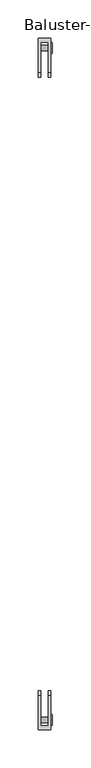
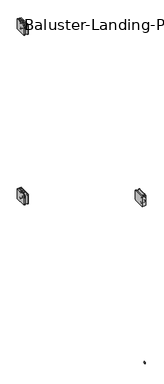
"""IFC4 building model written with IfcOpenShell, lengths in millimetres: railing geometry, Baluster-Landing-Panel-VIVA-BEACON-Lower : Standard_Glass."""

from ifc_helpers import new_model, si_unit, point, frame, origin, place, context, project, spatial, polyline, circle_curve, ellipse_curve, trimmed, outline, extrude, source, transform, mapped, element, save
from ifc_brep_helpers import plane_surface, cylinder_surface, revolved_surface, advanced_brep


def baluster_landing_panel_viva_beacon_lower_standard_glass_b56cfc86(model_context):
    return source(origin(), model_context, "Body", "SolidModel", [
        extrude(outline(polyline([(864.6905341, 973.286725), (862.64357, 969.7412791), (858.5496417, 969.7412791), (856.5026775, 973.286725), (858.5496417, 976.8321709), (862.64357, 976.8321709), (864.6905341, 973.286725)])), frame((46.904612, 0.0, 0.0), z_axis=(1.0, 0.0, 0.0), x_axis=(0.0, 1.0, 0.0)), (0.0, 0.0, 1.0), 1.4969696),
        advanced_brep(
        [(33.3375, 864.1420517, 973.286725), (46.0375, 864.1420517, 973.286725), (46.0375, 857.0511599, 973.286725), (33.3375, 857.0511599, 973.286725), (46.0375, 868.0043949, 973.286725), (46.0375, 853.1888167, 973.286725), (46.904612, 862.2526812, 973.286725), (33.3375, 862.2526812, 973.286725), (33.3375, 858.9405304, 973.286725), (46.904612, 858.9405304, 973.286725), (46.8723449, 868.0043949, 973.286725), (48.1536169, 866.7231229, 973.286725), (48.1536169, 854.4700888, 973.286725), (46.8723449, 853.1888167, 973.286725), (48.1536169, 864.8952014, 973.286725), (48.1536169, 856.2980103, 973.286725), (46.904612, 864.8952014, 973.286725), (46.904612, 856.2980103, 973.286725)],
        [
            (0, 1),
            (1, 2, circle_curve(frame((46.0375, 860.5966058, 973.286725), z_axis=(-1.0, 0.0, 0.0), x_axis=(0.0, -1.0, 0.0)), 3.5454459)),
            (2, 3),
            (3, 0, circle_curve(frame((33.3375, 860.5966058, 973.286725), z_axis=(1.0, 0.0, 0.0), x_axis=(0.0, -1.0, 0.0)), 3.5454459)),
            (2, 1, circle_curve(frame((46.0375, 860.5966058, 973.286725), z_axis=(-1.0, 0.0, 0.0), x_axis=(0.0, -1.0, 0.0)), 3.5454459)),
            (0, 3, circle_curve(frame((33.3375, 860.5966058, 973.286725), z_axis=(1.0, 0.0, 0.0), x_axis=(0.0, -1.0, 0.0)), 3.5454459)),
            (1, 4),
            (4, 5, circle_curve(frame((46.0375, 860.5966058, 973.286725), z_axis=(-1.0, 0.0, 0.0), x_axis=(0.0, -1.0, 0.0)), 7.4077891)),
            (5, 2),
            (5, 4, circle_curve(frame((46.0375, 860.5966058, 973.286725), z_axis=(-1.0, 0.0, 0.0), x_axis=(0.0, -1.0, 0.0)), 7.4077891)),
            (6, 7),
            (7, 8, circle_curve(frame((33.3375, 860.5966058, 973.286725), z_axis=(-1.0, 0.0, 0.0), x_axis=(0.0, -1.0, 0.0)), 1.6560754)),
            (8, 9),
            (9, 6, circle_curve(frame((46.904612, 860.5966058, 973.286725), z_axis=(1.0, 0.0, 0.0), x_axis=(0.0, -1.0, 0.0)), 1.6560754)),
            (8, 7, circle_curve(frame((33.3375, 860.5966058, 973.286725), z_axis=(-1.0, 0.0, 0.0), x_axis=(0.0, -1.0, 0.0)), 1.6560754)),
            (6, 9, circle_curve(frame((46.904612, 860.5966058, 973.286725), z_axis=(1.0, 0.0, 0.0), x_axis=(0.0, -1.0, 0.0)), 1.6560754)),
            (10, 11, circle_curve(frame((46.8723449, 866.7231229, 973.286725), z_axis=(0.0, 0.0, -1.0), x_axis=(0.0, 1.0, 0.0)), 1.281272)),
            (11, 12, circle_curve(frame((48.1536169, 860.5966058, 973.286725), z_axis=(-1.0, 0.0, 0.0), x_axis=(0.0, -1.0, 0.0)), 6.1265171)),
            (12, 13, circle_curve(frame((46.8723449, 854.4700888, 973.286725), z_axis=(0.0, 0.0, -1.0), x_axis=(0.0, -1.0, 0.0)), 1.281272)),
            (13, 10, circle_curve(frame((46.8723449, 860.5966058, 973.286725), z_axis=(1.0, 0.0, 0.0), x_axis=(0.0, -1.0, 0.0)), 7.4077891)),
            (12, 11, circle_curve(frame((48.1536169, 860.5966058, 973.286725), z_axis=(-1.0, 0.0, 0.0), x_axis=(0.0, -1.0, 0.0)), 6.1265171)),
            (10, 13, circle_curve(frame((46.8723449, 860.5966058, 973.286725), z_axis=(1.0, 0.0, 0.0), x_axis=(0.0, -1.0, 0.0)), 7.4077891)),
            (11, 14),
            (14, 15, circle_curve(frame((48.1536169, 860.5966058, 973.286725), z_axis=(-1.0, 0.0, 0.0), x_axis=(0.0, -1.0, 0.0)), 4.2985955)),
            (15, 12),
            (15, 14, circle_curve(frame((48.1536169, 860.5966058, 973.286725), z_axis=(-1.0, 0.0, 0.0), x_axis=(0.0, -1.0, 0.0)), 4.2985955)),
            (4, 10),
            (13, 5),
            (7, 0),
            (3, 8),
            (14, 16),
            (16, 17, circle_curve(frame((46.904612, 860.5966058, 973.286725), z_axis=(-1.0, 0.0, 0.0), x_axis=(0.0, -1.0, 0.0)), 4.2985955)),
            (17, 15),
            (17, 16, circle_curve(frame((46.904612, 860.5966058, 973.286725), z_axis=(-1.0, 0.0, 0.0), x_axis=(0.0, -1.0, 0.0)), 4.2985955)),
            (16, 6),
            (9, 17),
        ],
        [
            cylinder_surface(frame((42.5407669, 860.5966058, 973.286725), z_axis=(-1.0, 0.0, 0.0), x_axis=(0.0, -1.0, 0.0)), 3.5454459),
            plane_surface(frame((46.0375, 860.5966058, 973.286725), z_axis=(-1.0, 0.0, 0.0), x_axis=(0.0, -1.0, 0.0))),
            revolved_surface(polyline([(33.3375, 858.9405304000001, 973.286725), (46.904612, 858.9405304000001, 973.286725)]), (42.5407669, 860.5966058, 973.286725), (-1.0, 0.0, 0.0)),
            revolved_surface(trimmed(ellipse_curve(frame((46.8723449, 854.4700888, 973.286725), z_axis=(0.0, 0.0, -1.0), x_axis=(0.0, -1.0, 0.0)), 1.281272, 1.281272), [point((48.1536169, 854.4700888, 973.286725))], [point((46.8723449, 853.1888167, 973.286725))], True, "CARTESIAN"), (42.5407669, 860.5966058, 973.286725), (-1.0, 0.0, 0.0)),
            plane_surface(frame((48.1536169, 860.5966058, 973.286725), z_axis=(1.0, 0.0, 0.0), x_axis=(0.0, -1.0, 0.0))),
            cylinder_surface(frame((42.5407669, 860.5966058, 973.286725), z_axis=(-1.0, 0.0, 0.0), x_axis=(0.0, -1.0, 0.0)), 7.4077891),
            plane_surface(frame((33.3375, 860.5966058, 973.286725), z_axis=(-1.0, 0.0, 0.0), x_axis=(0.0, -1.0, 0.0))),
            revolved_surface(polyline([(46.904612, 856.2980103, 973.286725), (48.1536169, 856.2980103, 973.286725)]), (42.5407669, 860.5966058, 973.286725), (-1.0, 0.0, 0.0)),
            plane_surface(frame((46.904612, 860.5966058, 973.286725), z_axis=(1.0, 0.0, 0.0), x_axis=(0.0, -1.0, 0.0))),
        ],
        [
            (0, [[1, 2, 3, 4]]),
            (0, [[-3, 5, -1, 6]]),
            (1, [[7, 8, 9, -2]]),
            (1, [[-9, 10, -7, -5]]),
            (2, [[11, 12, 13, 14]]),
            (2, [[-13, 15, -11, 16]]),
            (3, [[17, 18, 19, 20]]),
            (3, [[-19, 21, -17, 22]]),
            (4, [[23, 24, 25, -18]]),
            (4, [[-25, 26, -23, -21]]),
            (5, [[27, -20, 28, -8]]),
            (5, [[-28, -22, -27, -10]]),
            (6, [[29, -4, 30, -12]]),
            (6, [[-30, -6, -29, -15]]),
            (7, [[31, 32, 33, -24]]),
            (7, [[-33, 34, -31, -26]]),
            (8, [[35, -14, 36, -32]]),
            (8, [[-36, -16, -35, -34]]),
        ],
    ),
        advanced_brep(
        [(33.3375, 864.1420517, 948.680475), (46.0375, 864.1420517, 948.680475), (46.0375, 857.0511599, 948.680475), (33.3375, 857.0511599, 948.680475), (46.0375, 868.0043949, 948.680475), (46.0375, 853.1888167, 948.680475), (46.904612, 862.2526812, 948.680475), (33.3375, 862.2526812, 948.680475), (33.3375, 858.9405304, 948.680475), (46.904612, 858.9405304, 948.680475), (46.8723449, 868.0043949, 948.680475), (48.1536169, 866.7231229, 948.680475), (48.1536169, 854.4700888, 948.680475), (46.8723449, 853.1888167, 948.680475), (48.1536169, 864.8952014, 948.680475), (48.1536169, 856.2980103, 948.680475), (46.904612, 864.8952014, 948.680475), (46.904612, 856.2980103, 948.680475)],
        [
            (0, 1),
            (1, 2, circle_curve(frame((46.0375, 860.5966058, 948.680475), z_axis=(-1.0, 0.0, 0.0), x_axis=(0.0, -1.0, 0.0)), 3.5454459)),
            (2, 3),
            (3, 0, circle_curve(frame((33.3375, 860.5966058, 948.680475), z_axis=(1.0, 0.0, 0.0), x_axis=(0.0, -1.0, 0.0)), 3.5454459)),
            (2, 1, circle_curve(frame((46.0375, 860.5966058, 948.680475), z_axis=(-1.0, 0.0, 0.0), x_axis=(0.0, -1.0, 0.0)), 3.5454459)),
            (0, 3, circle_curve(frame((33.3375, 860.5966058, 948.680475), z_axis=(1.0, 0.0, 0.0), x_axis=(0.0, -1.0, 0.0)), 3.5454459)),
            (1, 4),
            (4, 5, circle_curve(frame((46.0375, 860.5966058, 948.680475), z_axis=(-1.0, 0.0, 0.0), x_axis=(0.0, -1.0, 0.0)), 7.4077891)),
            (5, 2),
            (5, 4, circle_curve(frame((46.0375, 860.5966058, 948.680475), z_axis=(-1.0, 0.0, 0.0), x_axis=(0.0, -1.0, 0.0)), 7.4077891)),
            (6, 7),
            (7, 8, circle_curve(frame((33.3375, 860.5966058, 948.680475), z_axis=(-1.0, 0.0, 0.0), x_axis=(0.0, -1.0, 0.0)), 1.6560754)),
            (8, 9),
            (9, 6, circle_curve(frame((46.904612, 860.5966058, 948.680475), z_axis=(1.0, 0.0, 0.0), x_axis=(0.0, -1.0, 0.0)), 1.6560754)),
            (8, 7, circle_curve(frame((33.3375, 860.5966058, 948.680475), z_axis=(-1.0, 0.0, 0.0), x_axis=(0.0, -1.0, 0.0)), 1.6560754)),
            (6, 9, circle_curve(frame((46.904612, 860.5966058, 948.680475), z_axis=(1.0, 0.0, 0.0), x_axis=(0.0, -1.0, 0.0)), 1.6560754)),
            (10, 11, circle_curve(frame((46.8723449, 866.7231229, 948.680475), z_axis=(0.0, 0.0, -1.0), x_axis=(0.0, 1.0, 0.0)), 1.281272)),
            (11, 12, circle_curve(frame((48.1536169, 860.5966058, 948.680475), z_axis=(-1.0, 0.0, 0.0), x_axis=(0.0, -1.0, 0.0)), 6.1265171)),
            (12, 13, circle_curve(frame((46.8723449, 854.4700888, 948.680475), z_axis=(0.0, 0.0, -1.0), x_axis=(0.0, -1.0, 0.0)), 1.281272)),
            (13, 10, circle_curve(frame((46.8723449, 860.5966058, 948.680475), z_axis=(1.0, 0.0, 0.0), x_axis=(0.0, -1.0, 0.0)), 7.4077891)),
            (12, 11, circle_curve(frame((48.1536169, 860.5966058, 948.680475), z_axis=(-1.0, 0.0, 0.0), x_axis=(0.0, -1.0, 0.0)), 6.1265171)),
            (10, 13, circle_curve(frame((46.8723449, 860.5966058, 948.680475), z_axis=(1.0, 0.0, 0.0), x_axis=(0.0, -1.0, 0.0)), 7.4077891)),
            (11, 14),
            (14, 15, circle_curve(frame((48.1536169, 860.5966058, 948.680475), z_axis=(-1.0, 0.0, 0.0), x_axis=(0.0, -1.0, 0.0)), 4.2985955)),
            (15, 12),
            (15, 14, circle_curve(frame((48.1536169, 860.5966058, 948.680475), z_axis=(-1.0, 0.0, 0.0), x_axis=(0.0, -1.0, 0.0)), 4.2985955)),
            (7, 0),
            (3, 8),
            (4, 10),
            (13, 5),
            (14, 16),
            (16, 17, circle_curve(frame((46.904612, 860.5966058, 948.680475), z_axis=(-1.0, 0.0, 0.0), x_axis=(0.0, -1.0, 0.0)), 4.2985955)),
            (17, 15),
            (17, 16, circle_curve(frame((46.904612, 860.5966058, 948.680475), z_axis=(-1.0, 0.0, 0.0), x_axis=(0.0, -1.0, 0.0)), 4.2985955)),
            (16, 6),
            (9, 17),
        ],
        [
            cylinder_surface(frame((42.5407669, 860.5966058, 948.680475), z_axis=(-1.0, 0.0, 0.0), x_axis=(0.0, -1.0, 0.0)), 3.5454459),
            plane_surface(frame((46.0375, 860.5966058, 948.680475), z_axis=(-1.0, 0.0, 0.0), x_axis=(0.0, -1.0, 0.0))),
            revolved_surface(polyline([(33.3375, 858.9405304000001, 948.680475), (46.904612, 858.9405304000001, 948.680475)]), (42.5407669, 860.5966058, 948.680475), (-1.0, 0.0, 0.0)),
            revolved_surface(trimmed(ellipse_curve(frame((46.8723449, 854.4700888, 948.680475), z_axis=(0.0, 0.0, -1.0), x_axis=(0.0, -1.0, 0.0)), 1.281272, 1.281272), [point((48.1536169, 854.4700888, 948.680475))], [point((46.8723449, 853.1888167, 948.680475))], True, "CARTESIAN"), (42.5407669, 860.5966058, 948.680475), (-1.0, 0.0, 0.0)),
            plane_surface(frame((48.1536169, 860.5966058, 948.680475), z_axis=(1.0, 0.0, 0.0), x_axis=(0.0, -1.0, 0.0))),
            plane_surface(frame((33.3375, 860.5966058, 948.680475), z_axis=(-1.0, 0.0, 0.0), x_axis=(0.0, -1.0, 0.0))),
            cylinder_surface(frame((42.5407669, 860.5966058, 948.680475), z_axis=(-1.0, 0.0, 0.0), x_axis=(0.0, -1.0, 0.0)), 7.4077891),
            revolved_surface(polyline([(46.904612, 856.2980103, 948.680475), (48.1536169, 856.2980103, 948.680475)]), (42.5407669, 860.5966058, 948.680475), (-1.0, 0.0, 0.0)),
            plane_surface(frame((46.904612, 860.5966058, 948.680475), z_axis=(1.0, 0.0, 0.0), x_axis=(0.0, -1.0, 0.0))),
        ],
        [
            (0, [[1, 2, 3, 4]]),
            (0, [[-3, 5, -1, 6]]),
            (1, [[7, 8, 9, -2]]),
            (1, [[-9, 10, -7, -5]]),
            (2, [[11, 12, 13, 14]]),
            (2, [[-13, 15, -11, 16]]),
            (3, [[17, 18, 19, 20]]),
            (3, [[-19, 21, -17, 22]]),
            (4, [[23, 24, 25, -18]]),
            (4, [[-25, 26, -23, -21]]),
            (5, [[27, -4, 28, -12]]),
            (5, [[-28, -6, -27, -15]]),
            (6, [[29, -20, 30, -8]]),
            (6, [[-30, -22, -29, -10]]),
            (7, [[31, 32, 33, -24]]),
            (7, [[-33, 34, -31, -26]]),
            (8, [[35, -14, 36, -32]]),
            (8, [[-36, -16, -35, -34]]),
        ],
    ),
        extrude(outline(polyline([(864.6905341, 948.680475), (862.64357, 945.1350291), (858.5496417, 945.1350291), (856.5026775, 948.680475), (858.5496417, 952.2259209), (862.64357, 952.2259209), (864.6905341, 948.680475)])), frame((46.904612, 0.0, 0.0), z_axis=(1.0, 0.0, 0.0), x_axis=(0.0, 1.0, 0.0)), (0.0, 0.0, 1.0), 1.4969696),
        advanced_brep(
        [(46.0375, 873.2299506, 983.2086), (46.0375, 828.7799506, 983.2086), (46.0375, 822.4299506, 976.8586), (46.0375, 822.4299506, 945.1086), (46.0375, 828.7799506, 938.7586), (46.0375, 873.2299506, 938.7586), (30.1625, 873.2299506, 983.2086), (30.1625, 873.2299506, 938.7586), (30.1625, 828.7799506, 938.7586), (30.1625, 822.4299506, 945.1086), (30.1625, 822.4299506, 976.8586), (30.1625, 828.7799506, 983.2086), (42.8625, 828.7799506, 938.7586), (42.8625, 868.5118702, 938.7586), (33.3375, 868.5118702, 938.7586), (33.3375, 828.7799506, 938.7586), (42.8625, 868.5118702, 983.2086), (33.3375, 868.5118702, 983.2086), (42.8625, 822.4299506, 945.1086), (42.8625, 822.4299506, 976.8586), (42.8625, 828.7799506, 983.2086), (33.3375, 828.7799506, 983.2086), (33.3375, 822.4299506, 976.8586), (33.3375, 822.4299506, 945.1086)],
        [
            (0, 1),
            (1, 2, circle_curve(frame((46.0375, 828.7799506, 976.8586), z_axis=(1.0, 0.0, 0.0), x_axis=(0.0, -1.0, 0.0)), 6.35)),
            (2, 3),
            (3, 4, circle_curve(frame((46.0375, 828.7799506, 945.1086), z_axis=(1.0, 0.0, 0.0), x_axis=(0.0, -1.0, 0.0)), 6.35)),
            (4, 5),
            (5, 0),
            (6, 7),
            (7, 8),
            (8, 9, circle_curve(frame((30.1625, 828.7799506, 945.1086), z_axis=(-1.0, 0.0, 0.0), x_axis=(0.0, -1.0, 0.0)), 6.35)),
            (9, 10),
            (10, 11, circle_curve(frame((30.1625, 828.7799506, 976.8586), z_axis=(-1.0, 0.0, 0.0), x_axis=(0.0, -1.0, 0.0)), 6.35)),
            (11, 6),
            (5, 7),
            (6, 0),
            (4, 12),
            (12, 13),
            (13, 14),
            (14, 15),
            (15, 8),
            (13, 16),
            (16, 17),
            (17, 14),
            (12, 18, circle_curve(frame((42.8625, 828.7799506, 945.1086), z_axis=(-1.0, 0.0, 0.0), x_axis=(0.0, -1.0, 0.0)), 6.35)),
            (18, 19),
            (19, 20, circle_curve(frame((42.8625, 828.7799506, 976.8586), z_axis=(-1.0, 0.0, 0.0), x_axis=(0.0, -1.0, 0.0)), 6.35)),
            (20, 16),
            (17, 21),
            (21, 22, circle_curve(frame((33.3375, 828.7799506, 976.8586), z_axis=(1.0, 0.0, 0.0), x_axis=(0.0, -1.0, 0.0)), 6.35)),
            (22, 23),
            (23, 15, circle_curve(frame((33.3375, 828.7799506, 945.1086), z_axis=(1.0, 0.0, 0.0), x_axis=(0.0, -1.0, 0.0)), 6.35)),
            (23, 9),
            (3, 18),
            (22, 10),
            (2, 19),
            (21, 11),
            (1, 20),
        ],
        [
            plane_surface(frame((46.0375, 873.2299506, 938.7586), z_axis=(1.0, 0.0, 0.0), x_axis=(0.0, 0.0, -1.0))),
            plane_surface(frame((30.1625, 873.2299506, 938.7586), z_axis=(-1.0, 0.0, 0.0), x_axis=(0.0, 0.0, 1.0))),
            plane_surface(frame((46.0375, 873.2299506, 983.2086), z_axis=(0.0, 1.0, 0.0), x_axis=(-1.0, 0.0, 0.0))),
            plane_surface(frame((46.0375, 873.2299506, 938.7586), z_axis=(0.0, 0.0, -1.0), x_axis=(-1.0, 0.0, 0.0))),
            plane_surface(frame((33.3375, 868.5118702, 995.9086), z_axis=(0.0, -1.0, 0.0), x_axis=(0.0, 0.0, -1.0))),
            plane_surface(frame((42.8625, 868.5118702, 995.9086), z_axis=(-1.0, 0.0, 0.0), x_axis=(0.0, 0.0, -1.0))),
            plane_surface(frame((33.3375, 809.7299506, 995.9086), z_axis=(1.0, 0.0, 0.0), x_axis=(0.0, 0.0, -1.0))),
            cylinder_surface(frame((30.1625, 828.7799506, 945.1086), z_axis=(1.0, 0.0, 0.0), x_axis=(0.0, -1.0, 0.0)), 6.35),
            plane_surface(frame((46.0375, 822.4299506, 945.1086), z_axis=(0.0, -1.0, 0.0), x_axis=(-1.0, 0.0, 0.0))),
            cylinder_surface(frame((30.1625, 828.7799506, 976.8586), z_axis=(1.0, 0.0, 0.0), x_axis=(0.0, -1.0, 0.0)), 6.35),
            plane_surface(frame((46.0375, 828.7799506, 983.2086), z_axis=(0.0, 0.0, 1.0), x_axis=(-1.0, 0.0, 0.0))),
        ],
        [
            (0, [[1, 2, 3, 4, 5, 6]]),
            (1, [[7, 8, 9, 10, 11, 12]]),
            (2, [[13, -7, 14, -6]]),
            (3, [[15, 16, 17, 18, 19, -8, -13, -5]]),
            (4, [[-17, 20, 21, 22]]),
            (5, [[-16, 23, 24, 25, 26, -20]]),
            (6, [[27, 28, 29, 30, -18, -22]]),
            (7, [[-19, -30, 31, -9]]),
            (7, [[32, -23, -15, -4]]),
            (8, [[-31, -29, 33, -10]]),
            (8, [[34, -24, -32, -3]]),
            (9, [[-33, -28, 35, -11]]),
            (9, [[36, -25, -34, -2]]),
            (10, [[-14, -12, -35, -27, -21, -26, -36, -1]]),
        ],
    ),
        extrude(outline(polyline([(864.6905341, 225.917125), (862.64357, 222.3716791), (858.5496417, 222.3716791), (856.5026775, 225.917125), (858.5496417, 229.4625709), (862.64357, 229.4625709), (864.6905341, 225.917125)])), frame((46.904612, 0.0, 0.0), z_axis=(1.0, 0.0, 0.0), x_axis=(0.0, 1.0, 0.0)), (0.0, 0.0, 1.0), 1.4969696),
        advanced_brep(
        [(33.3375, 864.1420517, 225.917125), (46.0375, 864.1420517, 225.917125), (46.0375, 857.0511599, 225.917125), (33.3375, 857.0511599, 225.917125), (46.0375, 868.0043949, 225.917125), (46.0375, 853.1888167, 225.917125), (46.904612, 862.2526812, 225.917125), (33.3375, 862.2526812, 225.917125), (33.3375, 858.9405304, 225.917125), (46.904612, 858.9405304, 225.917125), (46.8723449, 868.0043949, 225.917125), (48.1536169, 866.7231229, 225.917125), (48.1536169, 854.4700888, 225.917125), (46.8723449, 853.1888167, 225.917125), (48.1536169, 864.8952014, 225.917125), (48.1536169, 856.2980103, 225.917125), (46.904612, 864.8952014, 225.917125), (46.904612, 856.2980103, 225.917125)],
        [
            (0, 1),
            (1, 2, circle_curve(frame((46.0375, 860.5966058, 225.917125), z_axis=(-1.0, 0.0, 0.0), x_axis=(0.0, -1.0, 0.0)), 3.5454459)),
            (2, 3),
            (3, 0, circle_curve(frame((33.3375, 860.5966058, 225.917125), z_axis=(1.0, 0.0, 0.0), x_axis=(0.0, -1.0, 0.0)), 3.5454459)),
            (2, 1, circle_curve(frame((46.0375, 860.5966058, 225.917125), z_axis=(-1.0, 0.0, 0.0), x_axis=(0.0, -1.0, 0.0)), 3.5454459)),
            (0, 3, circle_curve(frame((33.3375, 860.5966058, 225.917125), z_axis=(1.0, 0.0, 0.0), x_axis=(0.0, -1.0, 0.0)), 3.5454459)),
            (1, 4),
            (4, 5, circle_curve(frame((46.0375, 860.5966058, 225.917125), z_axis=(-1.0, 0.0, 0.0), x_axis=(0.0, -1.0, 0.0)), 7.4077891)),
            (5, 2),
            (5, 4, circle_curve(frame((46.0375, 860.5966058, 225.917125), z_axis=(-1.0, 0.0, 0.0), x_axis=(0.0, -1.0, 0.0)), 7.4077891)),
            (6, 7),
            (7, 8, circle_curve(frame((33.3375, 860.5966058, 225.917125), z_axis=(-1.0, 0.0, 0.0), x_axis=(0.0, -1.0, 0.0)), 1.6560754)),
            (8, 9),
            (9, 6, circle_curve(frame((46.904612, 860.5966058, 225.917125), z_axis=(1.0, 0.0, 0.0), x_axis=(0.0, -1.0, 0.0)), 1.6560754)),
            (8, 7, circle_curve(frame((33.3375, 860.5966058, 225.917125), z_axis=(-1.0, 0.0, 0.0), x_axis=(0.0, -1.0, 0.0)), 1.6560754)),
            (6, 9, circle_curve(frame((46.904612, 860.5966058, 225.917125), z_axis=(1.0, 0.0, 0.0), x_axis=(0.0, -1.0, 0.0)), 1.6560754)),
            (10, 11, circle_curve(frame((46.8723449, 866.7231229, 225.917125), z_axis=(0.0, 0.0, -1.0), x_axis=(0.0, 1.0, 0.0)), 1.281272)),
            (11, 12, circle_curve(frame((48.1536169, 860.5966058, 225.917125), z_axis=(-1.0, 0.0, 0.0), x_axis=(0.0, -1.0, 0.0)), 6.1265171)),
            (12, 13, circle_curve(frame((46.8723449, 854.4700888, 225.917125), z_axis=(0.0, 0.0, -1.0), x_axis=(0.0, -1.0, 0.0)), 1.281272)),
            (13, 10, circle_curve(frame((46.8723449, 860.5966058, 225.917125), z_axis=(1.0, 0.0, 0.0), x_axis=(0.0, -1.0, 0.0)), 7.4077891)),
            (12, 11, circle_curve(frame((48.1536169, 860.5966058, 225.917125), z_axis=(-1.0, 0.0, 0.0), x_axis=(0.0, -1.0, 0.0)), 6.1265171)),
            (10, 13, circle_curve(frame((46.8723449, 860.5966058, 225.917125), z_axis=(1.0, 0.0, 0.0), x_axis=(0.0, -1.0, 0.0)), 7.4077891)),
            (11, 14),
            (14, 15, circle_curve(frame((48.1536169, 860.5966058, 225.917125), z_axis=(-1.0, 0.0, 0.0), x_axis=(0.0, -1.0, 0.0)), 4.2985955)),
            (15, 12),
            (15, 14, circle_curve(frame((48.1536169, 860.5966058, 225.917125), z_axis=(-1.0, 0.0, 0.0), x_axis=(0.0, -1.0, 0.0)), 4.2985955)),
            (4, 10),
            (13, 5),
            (7, 0),
            (3, 8),
            (14, 16),
            (16, 17, circle_curve(frame((46.904612, 860.5966058, 225.917125), z_axis=(-1.0, 0.0, 0.0), x_axis=(0.0, -1.0, 0.0)), 4.2985955)),
            (17, 15),
            (17, 16, circle_curve(frame((46.904612, 860.5966058, 225.917125), z_axis=(-1.0, 0.0, 0.0), x_axis=(0.0, -1.0, 0.0)), 4.2985955)),
            (16, 6),
            (9, 17),
        ],
        [
            cylinder_surface(frame((42.5407669, 860.5966058, 225.917125), z_axis=(-1.0, 0.0, 0.0), x_axis=(0.0, -1.0, 0.0)), 3.5454459),
            plane_surface(frame((46.0375, 860.5966058, 225.917125), z_axis=(-1.0, 0.0, 0.0), x_axis=(0.0, -1.0, 0.0))),
            revolved_surface(polyline([(33.3375, 858.9405304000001, 225.917125), (46.904612, 858.9405304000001, 225.917125)]), (42.5407669, 860.5966058, 225.917125), (-1.0, 0.0, 0.0)),
            revolved_surface(trimmed(ellipse_curve(frame((46.8723449, 854.4700888, 225.917125), z_axis=(0.0, 0.0, -1.0), x_axis=(0.0, -1.0, 0.0)), 1.281272, 1.281272), [point((48.1536169, 854.4700888, 225.917125))], [point((46.8723449, 853.1888167, 225.917125))], True, "CARTESIAN"), (42.5407669, 860.5966058, 225.917125), (-1.0, 0.0, 0.0)),
            plane_surface(frame((48.1536169, 860.5966058, 225.917125), z_axis=(1.0, 0.0, 0.0), x_axis=(0.0, -1.0, 0.0))),
            cylinder_surface(frame((42.5407669, 860.5966058, 225.917125), z_axis=(-1.0, 0.0, 0.0), x_axis=(0.0, -1.0, 0.0)), 7.4077891),
            plane_surface(frame((33.3375, 860.5966058, 225.917125), z_axis=(-1.0, 0.0, 0.0), x_axis=(0.0, -1.0, 0.0))),
            revolved_surface(polyline([(46.904612, 856.2980103, 225.917125), (48.1536169, 856.2980103, 225.917125)]), (42.5407669, 860.5966058, 225.917125), (-1.0, 0.0, 0.0)),
            plane_surface(frame((46.904612, 860.5966058, 225.917125), z_axis=(1.0, 0.0, 0.0), x_axis=(0.0, -1.0, 0.0))),
        ],
        [
            (0, [[1, 2, 3, 4]]),
            (0, [[-3, 5, -1, 6]]),
            (1, [[7, 8, 9, -2]]),
            (1, [[-9, 10, -7, -5]]),
            (2, [[11, 12, 13, 14]]),
            (2, [[-13, 15, -11, 16]]),
            (3, [[17, 18, 19, 20]]),
            (3, [[-19, 21, -17, 22]]),
            (4, [[23, 24, 25, -18]]),
            (4, [[-25, 26, -23, -21]]),
            (5, [[27, -20, 28, -8]]),
            (5, [[-28, -22, -27, -10]]),
            (6, [[29, -4, 30, -12]]),
            (6, [[-30, -6, -29, -15]]),
            (7, [[31, 32, 33, -24]]),
            (7, [[-33, 34, -31, -26]]),
            (8, [[35, -14, 36, -32]]),
            (8, [[-36, -16, -35, -34]]),
        ],
    ),
        advanced_brep(
        [(33.3375, 864.1420517, 201.310875), (46.0375, 864.1420517, 201.310875), (46.0375, 857.0511599, 201.310875), (33.3375, 857.0511599, 201.310875), (46.0375, 868.0043949, 201.310875), (46.0375, 853.1888167, 201.310875), (46.904612, 862.2526812, 201.310875), (33.3375, 862.2526812, 201.310875), (33.3375, 858.9405304, 201.310875), (46.904612, 858.9405304, 201.310875), (46.8723449, 868.0043949, 201.310875), (48.1536169, 866.7231229, 201.310875), (48.1536169, 854.4700888, 201.310875), (46.8723449, 853.1888167, 201.310875), (48.1536169, 864.8952014, 201.310875), (48.1536169, 856.2980103, 201.310875), (46.904612, 864.8952014, 201.310875), (46.904612, 856.2980103, 201.310875)],
        [
            (0, 1),
            (1, 2, circle_curve(frame((46.0375, 860.5966058, 201.310875), z_axis=(-1.0, 0.0, 0.0), x_axis=(0.0, -1.0, 0.0)), 3.5454459)),
            (2, 3),
            (3, 0, circle_curve(frame((33.3375, 860.5966058, 201.310875), z_axis=(1.0, 0.0, 0.0), x_axis=(0.0, -1.0, 0.0)), 3.5454459)),
            (2, 1, circle_curve(frame((46.0375, 860.5966058, 201.310875), z_axis=(-1.0, 0.0, 0.0), x_axis=(0.0, -1.0, 0.0)), 3.5454459)),
            (0, 3, circle_curve(frame((33.3375, 860.5966058, 201.310875), z_axis=(1.0, 0.0, 0.0), x_axis=(0.0, -1.0, 0.0)), 3.5454459)),
            (1, 4),
            (4, 5, circle_curve(frame((46.0375, 860.5966058, 201.310875), z_axis=(-1.0, 0.0, 0.0), x_axis=(0.0, -1.0, 0.0)), 7.4077891)),
            (5, 2),
            (5, 4, circle_curve(frame((46.0375, 860.5966058, 201.310875), z_axis=(-1.0, 0.0, 0.0), x_axis=(0.0, -1.0, 0.0)), 7.4077891)),
            (6, 7),
            (7, 8, circle_curve(frame((33.3375, 860.5966058, 201.310875), z_axis=(-1.0, 0.0, 0.0), x_axis=(0.0, -1.0, 0.0)), 1.6560754)),
            (8, 9),
            (9, 6, circle_curve(frame((46.904612, 860.5966058, 201.310875), z_axis=(1.0, 0.0, 0.0), x_axis=(0.0, -1.0, 0.0)), 1.6560754)),
            (8, 7, circle_curve(frame((33.3375, 860.5966058, 201.310875), z_axis=(-1.0, 0.0, 0.0), x_axis=(0.0, -1.0, 0.0)), 1.6560754)),
            (6, 9, circle_curve(frame((46.904612, 860.5966058, 201.310875), z_axis=(1.0, 0.0, 0.0), x_axis=(0.0, -1.0, 0.0)), 1.6560754)),
            (10, 11, circle_curve(frame((46.8723449, 866.7231229, 201.310875), z_axis=(0.0, 0.0, -1.0), x_axis=(0.0, 1.0, 0.0)), 1.281272)),
            (11, 12, circle_curve(frame((48.1536169, 860.5966058, 201.310875), z_axis=(-1.0, 0.0, 0.0), x_axis=(0.0, -1.0, 0.0)), 6.1265171)),
            (12, 13, circle_curve(frame((46.8723449, 854.4700888, 201.310875), z_axis=(0.0, 0.0, -1.0), x_axis=(0.0, -1.0, 0.0)), 1.281272)),
            (13, 10, circle_curve(frame((46.8723449, 860.5966058, 201.310875), z_axis=(1.0, 0.0, 0.0), x_axis=(0.0, -1.0, 0.0)), 7.4077891)),
            (12, 11, circle_curve(frame((48.1536169, 860.5966058, 201.310875), z_axis=(-1.0, 0.0, 0.0), x_axis=(0.0, -1.0, 0.0)), 6.1265171)),
            (10, 13, circle_curve(frame((46.8723449, 860.5966058, 201.310875), z_axis=(1.0, 0.0, 0.0), x_axis=(0.0, -1.0, 0.0)), 7.4077891)),
            (11, 14),
            (14, 15, circle_curve(frame((48.1536169, 860.5966058, 201.310875), z_axis=(-1.0, 0.0, 0.0), x_axis=(0.0, -1.0, 0.0)), 4.2985955)),
            (15, 12),
            (15, 14, circle_curve(frame((48.1536169, 860.5966058, 201.310875), z_axis=(-1.0, 0.0, 0.0), x_axis=(0.0, -1.0, 0.0)), 4.2985955)),
            (7, 0),
            (3, 8),
            (4, 10),
            (13, 5),
            (14, 16),
            (16, 17, circle_curve(frame((46.904612, 860.5966058, 201.310875), z_axis=(-1.0, 0.0, 0.0), x_axis=(0.0, -1.0, 0.0)), 4.2985955)),
            (17, 15),
            (17, 16, circle_curve(frame((46.904612, 860.5966058, 201.310875), z_axis=(-1.0, 0.0, 0.0), x_axis=(0.0, -1.0, 0.0)), 4.2985955)),
            (16, 6),
            (9, 17),
        ],
        [
            cylinder_surface(frame((42.5407669, 860.5966058, 201.310875), z_axis=(-1.0, 0.0, 0.0), x_axis=(0.0, -1.0, 0.0)), 3.5454459),
            plane_surface(frame((46.0375, 860.5966058, 201.310875), z_axis=(-1.0, 0.0, 0.0), x_axis=(0.0, -1.0, 0.0))),
            revolved_surface(polyline([(33.3375, 858.9405304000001, 201.310875), (46.904612, 858.9405304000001, 201.310875)]), (42.5407669, 860.5966058, 201.310875), (-1.0, 0.0, 0.0)),
            revolved_surface(trimmed(ellipse_curve(frame((46.8723449, 854.4700888, 201.310875), z_axis=(0.0, 0.0, -1.0), x_axis=(0.0, -1.0, 0.0)), 1.281272, 1.281272), [point((48.1536169, 854.4700888, 201.310875))], [point((46.8723449, 853.1888167, 201.310875))], True, "CARTESIAN"), (42.5407669, 860.5966058, 201.310875), (-1.0, 0.0, 0.0)),
            plane_surface(frame((48.1536169, 860.5966058, 201.310875), z_axis=(1.0, 0.0, 0.0), x_axis=(0.0, -1.0, 0.0))),
            plane_surface(frame((33.3375, 860.5966058, 201.310875), z_axis=(-1.0, 0.0, 0.0), x_axis=(0.0, -1.0, 0.0))),
            cylinder_surface(frame((42.5407669, 860.5966058, 201.310875), z_axis=(-1.0, 0.0, 0.0), x_axis=(0.0, -1.0, 0.0)), 7.4077891),
            revolved_surface(polyline([(46.904612, 856.2980103, 201.310875), (48.1536169, 856.2980103, 201.310875)]), (42.5407669, 860.5966058, 201.310875), (-1.0, 0.0, 0.0)),
            plane_surface(frame((46.904612, 860.5966058, 201.310875), z_axis=(1.0, 0.0, 0.0), x_axis=(0.0, -1.0, 0.0))),
        ],
        [
            (0, [[1, 2, 3, 4]]),
            (0, [[-3, 5, -1, 6]]),
            (1, [[7, 8, 9, -2]]),
            (1, [[-9, 10, -7, -5]]),
            (2, [[11, 12, 13, 14]]),
            (2, [[-13, 15, -11, 16]]),
            (3, [[17, 18, 19, 20]]),
            (3, [[-19, 21, -17, 22]]),
            (4, [[23, 24, 25, -18]]),
            (4, [[-25, 26, -23, -21]]),
            (5, [[27, -4, 28, -12]]),
            (5, [[-28, -6, -27, -15]]),
            (6, [[29, -20, 30, -8]]),
            (6, [[-30, -22, -29, -10]]),
            (7, [[31, 32, 33, -24]]),
            (7, [[-33, 34, -31, -26]]),
            (8, [[35, -14, 36, -32]]),
            (8, [[-36, -16, -35, -34]]),
        ],
    ),
        extrude(outline(polyline([(864.6905341, 201.310875), (862.64357, 197.7654291), (858.5496417, 197.7654291), (856.5026775, 201.310875), (858.5496417, 204.8563209), (862.64357, 204.8563209), (864.6905341, 201.310875)])), frame((46.904612, 0.0, 0.0), z_axis=(1.0, 0.0, 0.0), x_axis=(0.0, 1.0, 0.0)), (0.0, 0.0, 1.0), 1.4969696),
        advanced_brep(
        [(46.0375, 873.2299506, 235.839), (46.0375, 828.7799506, 235.839), (46.0375, 822.4299506, 229.489), (46.0375, 822.4299506, 197.739), (46.0375, 828.7799506, 191.389), (46.0375, 873.2299506, 191.389), (30.1625, 873.2299506, 235.839), (30.1625, 873.2299506, 191.389), (30.1625, 828.7799506, 191.389), (30.1625, 822.4299506, 197.739), (30.1625, 822.4299506, 229.489), (30.1625, 828.7799506, 235.839), (42.8625, 828.7799506, 191.389), (42.8625, 868.5118702, 191.389), (33.3375, 868.5118702, 191.389), (33.3375, 828.7799506, 191.389), (42.8625, 868.5118702, 235.839), (33.3375, 868.5118702, 235.839), (42.8625, 822.4299506, 197.739), (42.8625, 822.4299506, 229.489), (42.8625, 828.7799506, 235.839), (33.3375, 828.7799506, 235.839), (33.3375, 822.4299506, 229.489), (33.3375, 822.4299506, 197.739)],
        [
            (0, 1),
            (1, 2, circle_curve(frame((46.0375, 828.7799506, 229.489), z_axis=(1.0, 0.0, 0.0), x_axis=(0.0, -1.0, 0.0)), 6.35)),
            (2, 3),
            (3, 4, circle_curve(frame((46.0375, 828.7799506, 197.739), z_axis=(1.0, 0.0, 0.0), x_axis=(0.0, -1.0, 0.0)), 6.35)),
            (4, 5),
            (5, 0),
            (6, 7),
            (7, 8),
            (8, 9, circle_curve(frame((30.1625, 828.7799506, 197.739), z_axis=(-1.0, 0.0, 0.0), x_axis=(0.0, -1.0, 0.0)), 6.35)),
            (9, 10),
            (10, 11, circle_curve(frame((30.1625, 828.7799506, 229.489), z_axis=(-1.0, 0.0, 0.0), x_axis=(0.0, -1.0, 0.0)), 6.35)),
            (11, 6),
            (5, 7),
            (6, 0),
            (4, 12),
            (12, 13),
            (13, 14),
            (14, 15),
            (15, 8),
            (13, 16),
            (16, 17),
            (17, 14),
            (12, 18, circle_curve(frame((42.8625, 828.7799506, 197.739), z_axis=(-1.0, 0.0, 0.0), x_axis=(0.0, -1.0, 0.0)), 6.35)),
            (18, 19),
            (19, 20, circle_curve(frame((42.8625, 828.7799506, 229.489), z_axis=(-1.0, 0.0, 0.0), x_axis=(0.0, -1.0, 0.0)), 6.35)),
            (20, 16),
            (17, 21),
            (21, 22, circle_curve(frame((33.3375, 828.7799506, 229.489), z_axis=(1.0, 0.0, 0.0), x_axis=(0.0, -1.0, 0.0)), 6.35)),
            (22, 23),
            (23, 15, circle_curve(frame((33.3375, 828.7799506, 197.739), z_axis=(1.0, 0.0, 0.0), x_axis=(0.0, -1.0, 0.0)), 6.35)),
            (23, 9),
            (3, 18),
            (22, 10),
            (2, 19),
            (21, 11),
            (1, 20),
        ],
        [
            plane_surface(frame((46.0375, 873.2299506, 191.389), z_axis=(1.0, 0.0, 0.0), x_axis=(0.0, 0.0, -1.0))),
            plane_surface(frame((30.1625, 873.2299506, 191.389), z_axis=(-1.0, 0.0, 0.0), x_axis=(0.0, 0.0, 1.0))),
            plane_surface(frame((46.0375, 873.2299506, 235.839), z_axis=(0.0, 1.0, 0.0), x_axis=(-1.0, 0.0, 0.0))),
            plane_surface(frame((46.0375, 873.2299506, 191.389), z_axis=(0.0, 0.0, -1.0), x_axis=(-1.0, 0.0, 0.0))),
            plane_surface(frame((33.3375, 868.5118702, 248.539), z_axis=(0.0, -1.0, 0.0), x_axis=(0.0, 0.0, -1.0))),
            plane_surface(frame((42.8625, 868.5118702, 248.539), z_axis=(-1.0, 0.0, 0.0), x_axis=(0.0, 0.0, -1.0))),
            plane_surface(frame((33.3375, 809.7299506, 248.539), z_axis=(1.0, 0.0, 0.0), x_axis=(0.0, 0.0, -1.0))),
            cylinder_surface(frame((30.1625, 828.7799506, 197.739), z_axis=(1.0, 0.0, 0.0), x_axis=(0.0, -1.0, 0.0)), 6.35),
            plane_surface(frame((46.0375, 822.4299506, 197.739), z_axis=(0.0, -1.0, 0.0), x_axis=(-1.0, 0.0, 0.0))),
            cylinder_surface(frame((30.1625, 828.7799506, 229.489), z_axis=(1.0, 0.0, 0.0), x_axis=(0.0, -1.0, 0.0)), 6.35),
            plane_surface(frame((46.0375, 828.7799506, 235.839), z_axis=(0.0, 0.0, 1.0), x_axis=(-1.0, 0.0, 0.0))),
        ],
        [
            (0, [[1, 2, 3, 4, 5, 6]]),
            (1, [[7, 8, 9, 10, 11, 12]]),
            (2, [[13, -7, 14, -6]]),
            (3, [[15, 16, 17, 18, 19, -8, -13, -5]]),
            (4, [[-17, 20, 21, 22]]),
            (5, [[-16, 23, 24, 25, 26, -20]]),
            (6, [[27, 28, 29, 30, -18, -22]]),
            (7, [[-19, -30, 31, -9]]),
            (7, [[32, -23, -15, -4]]),
            (8, [[-31, -29, 33, -10]]),
            (8, [[34, -24, -32, -3]]),
            (9, [[-33, -28, 35, -11]]),
            (9, [[36, -25, -34, -2]]),
            (10, [[-14, -12, -35, -27, -21, -26, -36, -1]]),
        ],
    ),
        extrude(outline(polyline([(-18.4480835, 736.5329842), (-16.4011194, 740.0784301), (-12.3071911, 740.0784301), (-10.2602269, 736.5329842), (-12.3071911, 732.9875382), (-16.4011194, 732.9875382), (-18.4480835, 736.5329842)])), frame((46.904612, 0.0, 0.0), z_axis=(1.0, 0.0, 0.0), x_axis=(0.0, 1.0, 0.0)), (0.0, 0.0, 1.0), 1.4969696),
        advanced_brep(
        [(33.3375, -17.8996011, 736.5329842), (33.3375, -10.8087093, 736.5329842), (46.0375, -10.8087093, 736.5329842), (46.0375, -17.8996011, 736.5329842), (46.0375, -6.9463661, 736.5329842), (46.0375, -21.7619443, 736.5329842), (46.904612, -16.0102306, 736.5329842), (46.904612, -12.6980798, 736.5329842), (33.3375, -12.6980798, 736.5329842), (33.3375, -16.0102306, 736.5329842), (46.8723449, -21.7619443, 736.5329842), (46.8723449, -6.9463661, 736.5329842), (48.1536169, -8.2276382, 736.5329842), (48.1536169, -20.4806723, 736.5329842), (48.1536169, -10.0555597, 736.5329842), (48.1536169, -18.6527508, 736.5329842), (46.904612, -10.0555597, 736.5329842), (46.904612, -18.6527508, 736.5329842)],
        [
            (0, 1, circle_curve(frame((33.3375, -14.3541552, 736.5329842), z_axis=(1.0, 0.0, 0.0), x_axis=(0.0, 1.0, 0.0)), 3.5454459)),
            (1, 2),
            (2, 3, circle_curve(frame((46.0375, -14.3541552, 736.5329842), z_axis=(-1.0, 0.0, 0.0), x_axis=(0.0, 1.0, 0.0)), 3.5454459)),
            (3, 0),
            (1, 0, circle_curve(frame((33.3375, -14.3541552, 736.5329842), z_axis=(1.0, 0.0, 0.0), x_axis=(0.0, 1.0, 0.0)), 3.5454459)),
            (3, 2, circle_curve(frame((46.0375, -14.3541552, 736.5329842), z_axis=(-1.0, 0.0, 0.0), x_axis=(0.0, 1.0, 0.0)), 3.5454459)),
            (2, 4),
            (4, 5, circle_curve(frame((46.0375, -14.3541552, 736.5329842), z_axis=(-1.0, 0.0, 0.0), x_axis=(0.0, 1.0, 0.0)), 7.4077891)),
            (5, 3),
            (5, 4, circle_curve(frame((46.0375, -14.3541552, 736.5329842), z_axis=(-1.0, 0.0, 0.0), x_axis=(0.0, 1.0, 0.0)), 7.4077891)),
            (6, 7, circle_curve(frame((46.904612, -14.3541552, 736.5329842), z_axis=(1.0, 0.0, 0.0), x_axis=(0.0, 1.0, 0.0)), 1.6560754)),
            (7, 8),
            (8, 9, circle_curve(frame((33.3375, -14.3541552, 736.5329842), z_axis=(-1.0, 0.0, 0.0), x_axis=(0.0, 1.0, 0.0)), 1.6560754)),
            (9, 6),
            (7, 6, circle_curve(frame((46.904612, -14.3541552, 736.5329842), z_axis=(1.0, 0.0, 0.0), x_axis=(0.0, 1.0, 0.0)), 1.6560754)),
            (9, 8, circle_curve(frame((33.3375, -14.3541552, 736.5329842), z_axis=(-1.0, 0.0, 0.0), x_axis=(0.0, 1.0, 0.0)), 1.6560754)),
            (10, 11, circle_curve(frame((46.8723449, -14.3541552, 736.5329842), z_axis=(1.0, 0.0, 0.0), x_axis=(0.0, 1.0, 0.0)), 7.4077891)),
            (11, 12, circle_curve(frame((46.8723449, -8.2276382, 736.5329842), z_axis=(0.0, 0.0, -1.0), x_axis=(0.0, 1.0, 0.0)), 1.281272)),
            (12, 13, circle_curve(frame((48.1536169, -14.3541552, 736.5329842), z_axis=(-1.0, 0.0, 0.0), x_axis=(0.0, 1.0, 0.0)), 6.1265171)),
            (13, 10, circle_curve(frame((46.8723449, -20.4806723, 736.5329842), z_axis=(0.0, 0.0, -1.0), x_axis=(0.0, -1.0, 0.0)), 1.281272)),
            (11, 10, circle_curve(frame((46.8723449, -14.3541552, 736.5329842), z_axis=(1.0, 0.0, 0.0), x_axis=(0.0, 1.0, 0.0)), 7.4077891)),
            (13, 12, circle_curve(frame((48.1536169, -14.3541552, 736.5329842), z_axis=(-1.0, 0.0, 0.0), x_axis=(0.0, 1.0, 0.0)), 6.1265171)),
            (12, 14),
            (14, 15, circle_curve(frame((48.1536169, -14.3541552, 736.5329842), z_axis=(-1.0, 0.0, 0.0), x_axis=(0.0, 1.0, 0.0)), 4.2985955)),
            (15, 13),
            (15, 14, circle_curve(frame((48.1536169, -14.3541552, 736.5329842), z_axis=(-1.0, 0.0, 0.0), x_axis=(0.0, 1.0, 0.0)), 4.2985955)),
            (4, 11),
            (10, 5),
            (8, 1),
            (0, 9),
            (14, 16),
            (16, 17, circle_curve(frame((46.904612, -14.3541552, 736.5329842), z_axis=(-1.0, 0.0, 0.0), x_axis=(0.0, 1.0, 0.0)), 4.2985955)),
            (17, 15),
            (17, 16, circle_curve(frame((46.904612, -14.3541552, 736.5329842), z_axis=(-1.0, 0.0, 0.0), x_axis=(0.0, 1.0, 0.0)), 4.2985955)),
            (16, 7),
            (6, 17),
        ],
        [
            cylinder_surface(frame((42.5407669, -14.3541552, 736.5329842), z_axis=(-1.0, 0.0, 0.0), x_axis=(0.0, 1.0, 0.0)), 3.5454459),
            plane_surface(frame((46.0375, -14.3541552, 736.5329842), z_axis=(-1.0, 0.0, 0.0), x_axis=(0.0, 1.0, 0.0))),
            revolved_surface(polyline([(33.3375, -12.698079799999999, 736.5329842), (46.904612, -12.698079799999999, 736.5329842)]), (42.5407669, -14.3541552, 736.5329842), (-1.0, 0.0, 0.0)),
            revolved_surface(trimmed(ellipse_curve(frame((46.8723449, -8.2276382, 736.5329842), z_axis=(0.0, 0.0, 1.0), x_axis=(0.0, 1.0, 0.0)), 1.281272, 1.281272), [point((48.1536169, -8.2276382, 736.5329842))], [point((46.8723449, -6.9463661, 736.5329842))], True, "CARTESIAN"), (42.5407669, -14.3541552, 736.5329842), (-1.0, 0.0, 0.0)),
            plane_surface(frame((48.1536169, -14.3541552, 736.5329842), z_axis=(1.0, 0.0, 0.0), x_axis=(0.0, 1.0, 0.0))),
            cylinder_surface(frame((42.5407669, -14.3541552, 736.5329842), z_axis=(-1.0, 0.0, 0.0), x_axis=(0.0, 1.0, 0.0)), 7.4077891),
            plane_surface(frame((33.3375, -14.3541552, 736.5329842), z_axis=(-1.0, 0.0, 0.0), x_axis=(0.0, 1.0, 0.0))),
            revolved_surface(polyline([(46.904612, -10.0555597, 736.5329842), (48.1536169, -10.0555597, 736.5329842)]), (42.5407669, -14.3541552, 736.5329842), (-1.0, 0.0, 0.0)),
            plane_surface(frame((46.904612, -14.3541552, 736.5329842), z_axis=(1.0, 0.0, 0.0), x_axis=(0.0, 1.0, 0.0))),
        ],
        [
            (0, [[1, 2, 3, 4]]),
            (0, [[5, -4, 6, -2]]),
            (1, [[-3, 7, 8, 9]]),
            (1, [[-6, -9, 10, -7]]),
            (2, [[11, 12, 13, 14]]),
            (2, [[15, -14, 16, -12]]),
            (3, [[17, 18, 19, 20]]),
            (3, [[21, -20, 22, -18]]),
            (4, [[-19, 23, 24, 25]]),
            (4, [[-22, -25, 26, -23]]),
            (5, [[-8, 27, -17, 28]]),
            (5, [[-10, -28, -21, -27]]),
            (6, [[-13, 29, -1, 30]]),
            (6, [[-16, -30, -5, -29]]),
            (7, [[-24, 31, 32, 33]]),
            (7, [[-26, -33, 34, -31]]),
            (8, [[-32, 35, -11, 36]]),
            (8, [[-34, -36, -15, -35]]),
        ],
    ),
        advanced_brep(
        [(33.3375, -17.8996011, 711.9267342), (33.3375, -10.8087093, 711.9267342), (46.0375, -10.8087093, 711.9267342), (46.0375, -17.8996011, 711.9267342), (46.0375, -6.9463661, 711.9267342), (46.0375, -21.7619443, 711.9267342), (46.904612, -16.0102306, 711.9267342), (46.904612, -12.6980798, 711.9267342), (33.3375, -12.6980798, 711.9267342), (33.3375, -16.0102306, 711.9267342), (46.8723449, -21.7619443, 711.9267342), (46.8723449, -6.9463661, 711.9267342), (48.1536169, -8.2276382, 711.9267342), (48.1536169, -20.4806723, 711.9267342), (48.1536169, -10.0555597, 711.9267342), (48.1536169, -18.6527508, 711.9267342), (46.904612, -10.0555597, 711.9267342), (46.904612, -18.6527508, 711.9267342)],
        [
            (0, 1, circle_curve(frame((33.3375, -14.3541552, 711.9267342), z_axis=(1.0, 0.0, 0.0), x_axis=(0.0, 1.0, 0.0)), 3.5454459)),
            (1, 2),
            (2, 3, circle_curve(frame((46.0375, -14.3541552, 711.9267342), z_axis=(-1.0, 0.0, 0.0), x_axis=(0.0, 1.0, 0.0)), 3.5454459)),
            (3, 0),
            (1, 0, circle_curve(frame((33.3375, -14.3541552, 711.9267342), z_axis=(1.0, 0.0, 0.0), x_axis=(0.0, 1.0, 0.0)), 3.5454459)),
            (3, 2, circle_curve(frame((46.0375, -14.3541552, 711.9267342), z_axis=(-1.0, 0.0, 0.0), x_axis=(0.0, 1.0, 0.0)), 3.5454459)),
            (2, 4),
            (4, 5, circle_curve(frame((46.0375, -14.3541552, 711.9267342), z_axis=(-1.0, 0.0, 0.0), x_axis=(0.0, 1.0, 0.0)), 7.4077891)),
            (5, 3),
            (5, 4, circle_curve(frame((46.0375, -14.3541552, 711.9267342), z_axis=(-1.0, 0.0, 0.0), x_axis=(0.0, 1.0, 0.0)), 7.4077891)),
            (6, 7, circle_curve(frame((46.904612, -14.3541552, 711.9267342), z_axis=(1.0, 0.0, 0.0), x_axis=(0.0, 1.0, 0.0)), 1.6560754)),
            (7, 8),
            (8, 9, circle_curve(frame((33.3375, -14.3541552, 711.9267342), z_axis=(-1.0, 0.0, 0.0), x_axis=(0.0, 1.0, 0.0)), 1.6560754)),
            (9, 6),
            (7, 6, circle_curve(frame((46.904612, -14.3541552, 711.9267342), z_axis=(1.0, 0.0, 0.0), x_axis=(0.0, 1.0, 0.0)), 1.6560754)),
            (9, 8, circle_curve(frame((33.3375, -14.3541552, 711.9267342), z_axis=(-1.0, 0.0, 0.0), x_axis=(0.0, 1.0, 0.0)), 1.6560754)),
            (10, 11, circle_curve(frame((46.8723449, -14.3541552, 711.9267342), z_axis=(1.0, 0.0, 0.0), x_axis=(0.0, 1.0, 0.0)), 7.4077891)),
            (11, 12, circle_curve(frame((46.8723449, -8.2276382, 711.9267342), z_axis=(0.0, 0.0, -1.0), x_axis=(0.0, 1.0, 0.0)), 1.281272)),
            (12, 13, circle_curve(frame((48.1536169, -14.3541552, 711.9267342), z_axis=(-1.0, 0.0, 0.0), x_axis=(0.0, 1.0, 0.0)), 6.1265171)),
            (13, 10, circle_curve(frame((46.8723449, -20.4806723, 711.9267342), z_axis=(0.0, 0.0, -1.0), x_axis=(0.0, -1.0, 0.0)), 1.281272)),
            (11, 10, circle_curve(frame((46.8723449, -14.3541552, 711.9267342), z_axis=(1.0, 0.0, 0.0), x_axis=(0.0, 1.0, 0.0)), 7.4077891)),
            (13, 12, circle_curve(frame((48.1536169, -14.3541552, 711.9267342), z_axis=(-1.0, 0.0, 0.0), x_axis=(0.0, 1.0, 0.0)), 6.1265171)),
            (12, 14),
            (14, 15, circle_curve(frame((48.1536169, -14.3541552, 711.9267342), z_axis=(-1.0, 0.0, 0.0), x_axis=(0.0, 1.0, 0.0)), 4.2985955)),
            (15, 13),
            (15, 14, circle_curve(frame((48.1536169, -14.3541552, 711.9267342), z_axis=(-1.0, 0.0, 0.0), x_axis=(0.0, 1.0, 0.0)), 4.2985955)),
            (8, 1),
            (0, 9),
            (4, 11),
            (10, 5),
            (14, 16),
            (16, 17, circle_curve(frame((46.904612, -14.3541552, 711.9267342), z_axis=(-1.0, 0.0, 0.0), x_axis=(0.0, 1.0, 0.0)), 4.2985955)),
            (17, 15),
            (17, 16, circle_curve(frame((46.904612, -14.3541552, 711.9267342), z_axis=(-1.0, 0.0, 0.0), x_axis=(0.0, 1.0, 0.0)), 4.2985955)),
            (16, 7),
            (6, 17),
        ],
        [
            cylinder_surface(frame((42.5407669, -14.3541552, 711.9267342), z_axis=(-1.0, 0.0, 0.0), x_axis=(0.0, 1.0, 0.0)), 3.5454459),
            plane_surface(frame((46.0375, -14.3541552, 711.9267342), z_axis=(-1.0, 0.0, 0.0), x_axis=(0.0, 1.0, 0.0))),
            revolved_surface(polyline([(33.3375, -12.698079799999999, 711.9267342), (46.904612, -12.698079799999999, 711.9267342)]), (42.5407669, -14.3541552, 711.9267342), (-1.0, 0.0, 0.0)),
            revolved_surface(trimmed(ellipse_curve(frame((46.8723449, -8.2276382, 711.9267342), z_axis=(0.0, 0.0, 1.0), x_axis=(0.0, 1.0, 0.0)), 1.281272, 1.281272), [point((48.1536169, -8.2276382, 711.9267342))], [point((46.8723449, -6.9463661, 711.9267342))], True, "CARTESIAN"), (42.5407669, -14.3541552, 711.9267342), (-1.0, 0.0, 0.0)),
            plane_surface(frame((48.1536169, -14.3541552, 711.9267342), z_axis=(1.0, 0.0, 0.0), x_axis=(0.0, 1.0, 0.0))),
            plane_surface(frame((33.3375, -14.3541552, 711.9267342), z_axis=(-1.0, 0.0, 0.0), x_axis=(0.0, 1.0, 0.0))),
            cylinder_surface(frame((42.5407669, -14.3541552, 711.9267342), z_axis=(-1.0, 0.0, 0.0), x_axis=(0.0, 1.0, 0.0)), 7.4077891),
            revolved_surface(polyline([(46.904612, -10.0555597, 711.9267342), (48.1536169, -10.0555597, 711.9267342)]), (42.5407669, -14.3541552, 711.9267342), (-1.0, 0.0, 0.0)),
            plane_surface(frame((46.904612, -14.3541552, 711.9267342), z_axis=(1.0, 0.0, 0.0), x_axis=(0.0, 1.0, 0.0))),
        ],
        [
            (0, [[1, 2, 3, 4]]),
            (0, [[5, -4, 6, -2]]),
            (1, [[-3, 7, 8, 9]]),
            (1, [[-6, -9, 10, -7]]),
            (2, [[11, 12, 13, 14]]),
            (2, [[15, -14, 16, -12]]),
            (3, [[17, 18, 19, 20]]),
            (3, [[21, -20, 22, -18]]),
            (4, [[-19, 23, 24, 25]]),
            (4, [[-22, -25, 26, -23]]),
            (5, [[-13, 27, -1, 28]]),
            (5, [[-16, -28, -5, -27]]),
            (6, [[-8, 29, -17, 30]]),
            (6, [[-10, -30, -21, -29]]),
            (7, [[-24, 31, 32, 33]]),
            (7, [[-26, -33, 34, -31]]),
            (8, [[-32, 35, -11, 36]]),
            (8, [[-34, -36, -15, -35]]),
        ],
    ),
        extrude(outline(polyline([(-18.4480835, 711.9267342), (-16.4011194, 715.4721801), (-12.3071911, 715.4721801), (-10.2602269, 711.9267342), (-12.3071911, 708.3812882), (-16.4011194, 708.3812882), (-18.4480835, 711.9267342)])), frame((46.904612, 0.0, 0.0), z_axis=(1.0, 0.0, 0.0), x_axis=(0.0, 1.0, 0.0)), (0.0, 0.0, 1.0), 1.4969696),
        advanced_brep(
        [(46.0375, -26.9875, 746.4548592), (46.0375, -26.9875, 702.0048592), (46.0375, 17.4625, 702.0048592), (46.0375, 23.8125, 708.3548592), (46.0375, 23.8125, 740.1048592), (46.0375, 17.4625, 746.4548592), (30.1625, -26.9875, 746.4548592), (30.1625, 17.4625, 746.4548592), (30.1625, 23.8125, 740.1048592), (30.1625, 23.8125, 708.3548592), (30.1625, 17.4625, 702.0048592), (30.1625, -26.9875, 702.0048592), (33.3375, 17.4625, 702.0048592), (33.3375, -22.2694196, 702.0048592), (42.8625, -22.2694196, 702.0048592), (42.8625, 17.4625, 702.0048592), (33.3375, -22.2694196, 746.4548592), (42.8625, -22.2694196, 746.4548592), (42.8625, 17.4625, 746.4548592), (42.8625, 23.8125, 740.1048592), (42.8625, 23.8125, 708.3548592), (33.3375, 23.8125, 708.3548592), (33.3375, 23.8125, 740.1048592), (33.3375, 17.4625, 746.4548592)],
        [
            (0, 1),
            (1, 2),
            (2, 3, circle_curve(frame((46.0375, 17.4625, 708.3548592), z_axis=(1.0, 0.0, 0.0), x_axis=(0.0, 1.0, 0.0)), 6.35)),
            (3, 4),
            (4, 5, circle_curve(frame((46.0375, 17.4625, 740.1048592), z_axis=(1.0, 0.0, 0.0), x_axis=(0.0, 1.0, 0.0)), 6.35)),
            (5, 0),
            (6, 7),
            (7, 8, circle_curve(frame((30.1625, 17.4625, 740.1048592), z_axis=(-1.0, 0.0, 0.0), x_axis=(0.0, 1.0, 0.0)), 6.35)),
            (8, 9),
            (9, 10, circle_curve(frame((30.1625, 17.4625, 708.3548592), z_axis=(-1.0, 0.0, 0.0), x_axis=(0.0, 1.0, 0.0)), 6.35)),
            (10, 11),
            (11, 6),
            (0, 6),
            (11, 1),
            (10, 12),
            (12, 13),
            (13, 14),
            (14, 15),
            (15, 2),
            (13, 16),
            (16, 17),
            (17, 14),
            (17, 18),
            (18, 19, circle_curve(frame((42.8625, 17.4625, 740.1048592), z_axis=(-1.0, 0.0, 0.0), x_axis=(0.0, 1.0, 0.0)), 6.35)),
            (19, 20),
            (20, 15, circle_curve(frame((42.8625, 17.4625, 708.3548592), z_axis=(-1.0, 0.0, 0.0), x_axis=(0.0, 1.0, 0.0)), 6.35)),
            (12, 21, circle_curve(frame((33.3375, 17.4625, 708.3548592), z_axis=(1.0, 0.0, 0.0), x_axis=(0.0, 1.0, 0.0)), 6.35)),
            (21, 22),
            (22, 23, circle_curve(frame((33.3375, 17.4625, 740.1048592), z_axis=(1.0, 0.0, 0.0), x_axis=(0.0, 1.0, 0.0)), 6.35)),
            (23, 16),
            (20, 3),
            (9, 21),
            (19, 4),
            (8, 22),
            (18, 5),
            (7, 23),
        ],
        [
            plane_surface(frame((46.0375, -26.9875, 702.0048592), z_axis=(1.0, 0.0, 0.0), x_axis=(0.0, 0.0, -1.0))),
            plane_surface(frame((30.1625, -26.9875, 702.0048592), z_axis=(-1.0, 0.0, 0.0), x_axis=(0.0, 0.0, 1.0))),
            plane_surface(frame((46.0375, -26.9875, 746.4548592), z_axis=(0.0, -1.0, 0.0), x_axis=(-1.0, 0.0, 0.0))),
            plane_surface(frame((46.0375, -26.9875, 702.0048592), z_axis=(0.0, 0.0, -1.0), x_axis=(-1.0, 0.0, 0.0))),
            plane_surface(frame((33.3375, -22.2694196, 759.1548592), z_axis=(0.0, 1.0, 0.0), x_axis=(0.0, 0.0, -1.0))),
            plane_surface(frame((42.8625, -22.2694196, 759.1548592), z_axis=(-1.0, 0.0, 0.0), x_axis=(0.0, 0.0, -1.0))),
            plane_surface(frame((33.3375, 36.5125, 759.1548592), z_axis=(1.0, 0.0, 0.0), x_axis=(0.0, 0.0, -1.0))),
            cylinder_surface(frame((30.1625, 17.4625, 708.3548592), z_axis=(1.0, 0.0, 0.0), x_axis=(0.0, 1.0, 0.0)), 6.35),
            plane_surface(frame((46.0375, 23.8125, 708.3548592), z_axis=(0.0, 1.0, 0.0), x_axis=(-1.0, 0.0, 0.0))),
            cylinder_surface(frame((30.1625, 17.4625, 740.1048592), z_axis=(1.0, 0.0, 0.0), x_axis=(0.0, 1.0, 0.0)), 6.35),
            plane_surface(frame((46.0375, 17.4625, 746.4548592), z_axis=(0.0, 0.0, 1.0), x_axis=(-1.0, 0.0, 0.0))),
        ],
        [
            (0, [[1, 2, 3, 4, 5, 6]]),
            (1, [[7, 8, 9, 10, 11, 12]]),
            (2, [[-1, 13, -12, 14]]),
            (3, [[-2, -14, -11, 15, 16, 17, 18, 19]]),
            (4, [[20, 21, 22, -17]]),
            (5, [[-22, 23, 24, 25, 26, -18]]),
            (6, [[-20, -16, 27, 28, 29, 30]]),
            (7, [[-3, -19, -26, 31]]),
            (7, [[-10, 32, -27, -15]]),
            (8, [[-4, -31, -25, 33]]),
            (8, [[-9, 34, -28, -32]]),
            (9, [[-5, -33, -24, 35]]),
            (9, [[-8, 36, -29, -34]]),
            (10, [[-6, -35, -23, -21, -30, -36, -7, -13]]),
        ],
    ),
        extrude(outline(polyline([(-18.4480835, 0.771525), (-16.4011194, 4.3169709), (-12.3071911, 4.3169709), (-10.2602269, 0.771525), (-12.3071911, -2.7739209), (-16.4011194, -2.7739209), (-18.4480835, 0.771525)])), frame((46.904612, 0.0, 0.0), z_axis=(1.0, 0.0, 0.0), x_axis=(0.0, 1.0, 0.0)), (0.0, 0.0, 1.0), 1.4969696),
    ])


if __name__ == "__main__":
    model = new_model("IFC4")
    model_context = context("Model", 3, world=origin())
    ifc_project = project(units=[si_unit("LENGTHUNIT", "METRE", prefix="MILLI")], contexts=[model_context])
    site = spatial("IfcSite", under=ifc_project)
    building = spatial("IfcBuilding", under=site)
    placement = place(None, origin())
    baluster_landing_panel_viva_beacon_lower_standard_glass_shape = baluster_landing_panel_viva_beacon_lower_standard_glass_b56cfc86(model_context)
    element("IfcRailing", 1, ObjectType="Baluster-Landing-Panel-VIVA-BEACON-Lower : Standard_Glass", at=placement, inside=building, context=model_context, shape_type="MappedRepresentation", body=[
        mapped(baluster_landing_panel_viva_beacon_lower_standard_glass_shape, transform((0.0, 0.0, 0.0), x_axis=(1.0, 0.0, 0.0), y_axis=(0.0, 1.0, 0.0), z_axis=(0.0, 0.0, 1.0))),
    ])
    save(model, "model.ifc")
